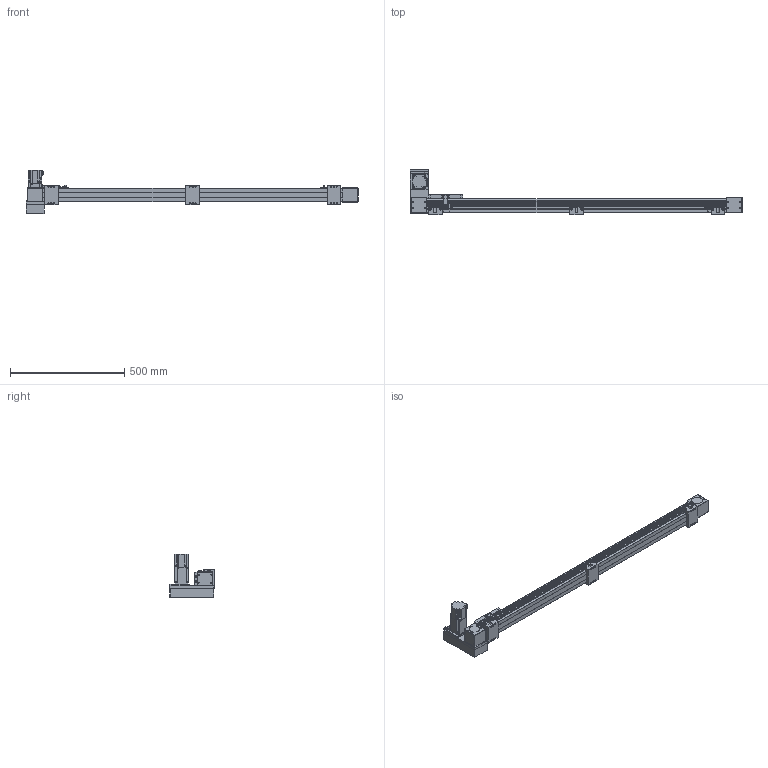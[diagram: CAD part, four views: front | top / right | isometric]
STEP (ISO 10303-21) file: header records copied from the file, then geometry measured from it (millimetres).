
FILE_DESCRIPTION(/* description */ ('STEP AP214'),/* implementation_level */ '2;1');
FILE_NAME(/* name */ 'SK60-P13-S1150-LU-T40-C1-N(0)',/* time_stamp */ '2023-04-06T04:47:46+02:00',/* author */ ('License CC BY-ND 4.0'),/* organization */ ('CADENAS'),/* preprocessor_version */ 'ST-DEVELOPER v19.3',/* originating_system */ 'PARTsolutions',/* authorisation */ ' ');
FILE_SCHEMA (('AUTOMOTIVE_DESIGN {1 0 10303 214 3 1 1}'));
Length unit declared in the file: millimetre
Products named in the file (10): SK60-P13-S1150-LU-T40-C1-N(0); PSC140-sensor; SK60-S450_seat; SK60-S450-BL-C1_slider; SK60_body3; SK60_body6; SK60-BL_body2; T40-p1; SK60-LU_fb; SK60-S1150-LU-C1_body
Assembly tree (17 placements, depth 2):
  SK60-P13-S1150-LU-T40-C1-N(0)
    PSC140-sensor  x3
    SK60-S450_seat  x3
    SK60-S450-BL-C1_slider
    SK60_body3  x3
    SK60_body6  x2
    SK60-BL_body2  x2
    T40-p1
    SK60-LU_fb
    SK60-S1150-LU-C1_body
Bounding box: 1455.5 x 201 x 189.7 mm (x, y, z)
Volume: 6155299.9 mm3; surface area: 767453 mm2
Topology: 17 solids, 17 shells, 854 faces, 2146 edges, 1413 vertices
Faces by surface type: plane 548, cylinder 278, cone 26, torus 2
Full cylindrical faces by diameter (mm): 2.8 x3, 3.3 x4, 4 x2, 4.5 x30, 4.6 x3, 4.917 x20, 5 x6, 5.478 x4, 5.5 x23, 6.5 x6, 7 x2, 8 x4, 8.5 x4, 9.988 x4, 10 x12, 14 x1, 47 x3, 50 x2
Entity records: 18663 total; most frequent: DIRECTION 3186, CARTESIAN_POINT 3151, ORIENTED_EDGE 2940, EDGE_CURVE 1470, AXIS2_PLACEMENT_3D 1069, LINE 1048, VECTOR 1048, VERTEX_POINT 1034
